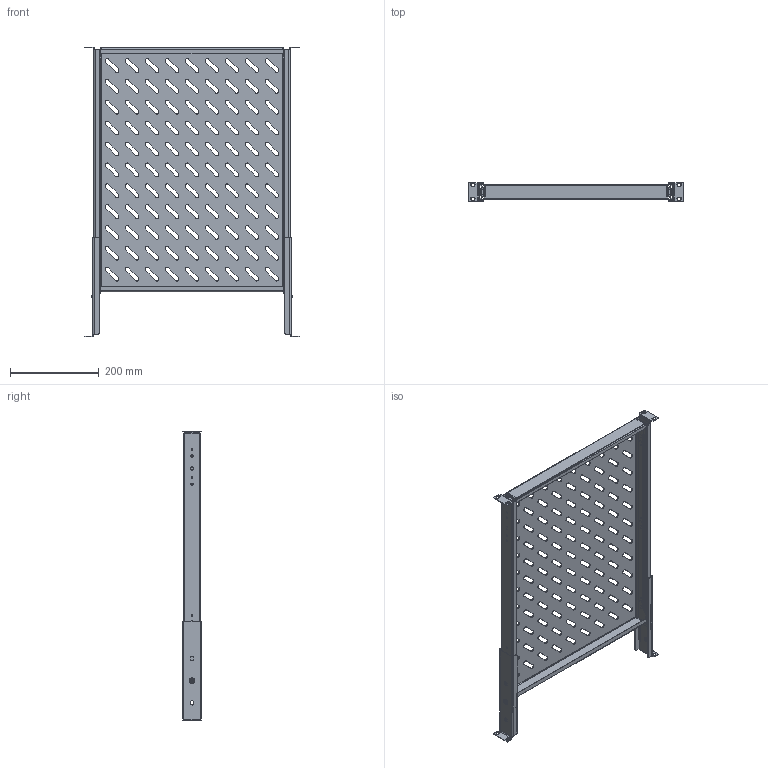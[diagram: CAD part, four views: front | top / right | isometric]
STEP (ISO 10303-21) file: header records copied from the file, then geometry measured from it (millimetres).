
FILE_DESCRIPTION (( 'STEP AP214' ), '1' );
FILE_NAME ('SH 48.55 IÌ Ïîëêà 19'''' âûäâèæíàÿ (650 ìì.).STEP', '2022-08-17T13:11:34', ( '' ), ( '' ), 'SwSTEP 2.0', 'SolidWorks 2018', '' );
FILE_SCHEMA (( 'AUTOMOTIVE_DESIGN' ));
Length unit declared in the file: millimetre
Products named in the file (1): SH 48.55 IÌ Ïîëêà 19'''' âûäâèæíàÿ (650 ìì.)
Bounding box: 482.6 x 43.6 x 652.8 mm (x, y, z)
Volume: 632231 mm3; surface area: 1010270.8 mm2
Topology: 15 solids, 15 shells, 1285 faces, 3365 edges, 2096 vertices
Faces by surface type: plane 688, cylinder 573, cone 8, torus 8, sphere 4, bspline 4
Entity records: 54328 total; most frequent: DIRECTION 7099, CARTESIAN_POINT 6971, ORIENTED_EDGE 6722, EDGE_CURVE 3361, AXIS2_PLACEMENT_3D 2464, VECTOR 2171, LINE 2171, VERTEX_POINT 2096
